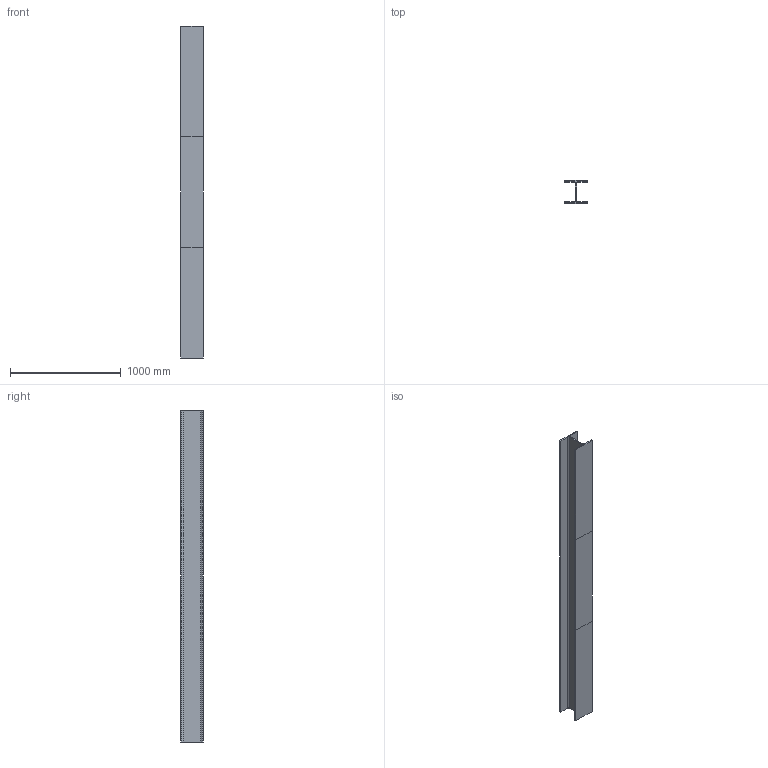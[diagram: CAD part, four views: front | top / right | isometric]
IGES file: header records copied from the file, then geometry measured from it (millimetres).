
Start section: SolidWorks IGES file using analytic representation for surfaces
Global section: file name: C:\Documents and Settings\Pc\Escritorio\Modelos 3D\Capítulo 3 (Pandeo)\PRACTICAS\P-8\P-8.IGS; native system: SolidWorks 2010; preprocessor: SolidWorks 2010; author: Pc; date: 100623.113837; units: millimetre
Bounding box: 207.14 x 203.71 x 3000 mm (x, y, z)
Surface area: 3601381.8 mm2 (no closed solid volume)
Topology: 0 solids, 0 shells, 24 faces, 188 edges, 188 vertices
Faces by surface type: bspline 20, revolution 4
